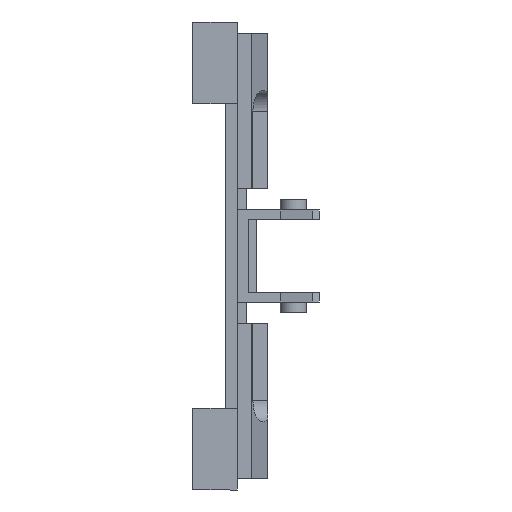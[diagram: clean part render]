
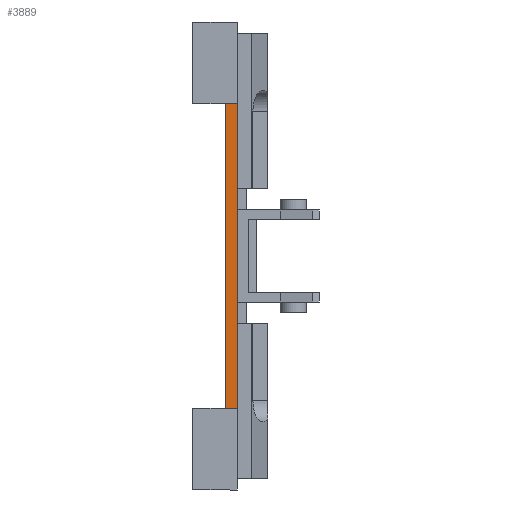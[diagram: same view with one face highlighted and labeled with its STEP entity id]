
A CAD part, front view. The second image highlights one B-rep face of the part: STEP entity #3889.
In plain terms, the highlighted planar face has unit normal (0, -1, 0).
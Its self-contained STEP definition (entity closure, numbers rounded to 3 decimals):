
#227 = ORIENTED_EDGE ( 'NONE', *, *, #2434, .F. ) ;
#228 = ORIENTED_EDGE ( 'NONE', *, *, #2825, .T. ) ;
#229 = ORIENTED_EDGE ( 'NONE', *, *, #2757, .F. ) ;
#230 = ORIENTED_EDGE ( 'NONE', *, *, #2590, .F. ) ;
#745 = EDGE_LOOP ( 'NONE', ( #227, #228, #229, #230 ) ) ;
#960 = CARTESIAN_POINT ( 'NONE',  ( 1.5, -9., 19.5 ) ) ;
#968 = DIRECTION ( 'NONE',  ( 1., 0., 0. ) ) ;
#1241 = CARTESIAN_POINT ( 'NONE',  ( 1.5, -9., -30. ) ) ;
#1242 = DIRECTION ( 'NONE',  ( 0., 0., -1. ) ) ;
#1474 = LINE ( 'NONE', #1901, #1475 ) ;
#1475 = VECTOR ( 'NONE', #1902, 1000. ) ;
#1792 = CARTESIAN_POINT ( 'NONE',  ( 1.5, -9., -19.5 ) ) ;
#1793 = DIRECTION ( 'NONE',  ( -1., 0., 0. ) ) ;
#1901 = CARTESIAN_POINT ( 'NONE',  ( 0., -9., -30. ) ) ;
#1902 = DIRECTION ( 'NONE',  ( 0., 0., -1. ) ) ;
#1957 = CARTESIAN_POINT ( 'NONE',  ( 0., -9., 19.5 ) ) ;
#1958 = CARTESIAN_POINT ( 'NONE',  ( 0., -9., -19.5 ) ) ;
#1994 = CARTESIAN_POINT ( 'NONE',  ( 1.5, -9., -19.5 ) ) ;
#1995 = CARTESIAN_POINT ( 'NONE',  ( 1.5, -9., 19.5 ) ) ;
#2434 = EDGE_CURVE ( 'NONE', #2955, #2993, #3301, .T. ) ;
#2590 = EDGE_CURVE ( 'NONE', #2993, #2992, #3178, .T. ) ;
#2669 = AXIS2_PLACEMENT_3D ( 'NONE', #3612, #3618, #3619 ) ;
#2757 = EDGE_CURVE ( 'NONE', #2992, #2956, #3514, .T. ) ;
#2825 = EDGE_CURVE ( 'NONE', #2955, #2956, #1474, .T. ) ;
#2955 = VERTEX_POINT ( 'NONE', #1957 ) ;
#2956 = VERTEX_POINT ( 'NONE', #1958 ) ;
#2992 = VERTEX_POINT ( 'NONE', #1994 ) ;
#2993 = VERTEX_POINT ( 'NONE', #1995 ) ;
#3178 = LINE ( 'NONE', #1241, #3179 ) ;
#3179 = VECTOR ( 'NONE', #1242, 1000. ) ;
#3299 = VECTOR ( 'NONE', #968, 1000. ) ;
#3301 = LINE ( 'NONE', #960, #3299 ) ;
#3514 = LINE ( 'NONE', #1792, #3515 ) ;
#3515 = VECTOR ( 'NONE', #1793, 1000. ) ;
#3609 = PLANE ( 'NONE',  #2669 ) ;
#3612 = CARTESIAN_POINT ( 'NONE',  ( 5.4, -9., -30. ) ) ;
#3618 = DIRECTION ( 'NONE',  ( 0., 1., 0. ) ) ;
#3619 = DIRECTION ( 'NONE',  ( 1., 0., 0. ) ) ;
#3889 = ADVANCED_FACE ( 'NONE', ( #3971 ), #3609, .F. ) ;
#3971 = FACE_OUTER_BOUND ( 'NONE', #745, .T. ) ;
